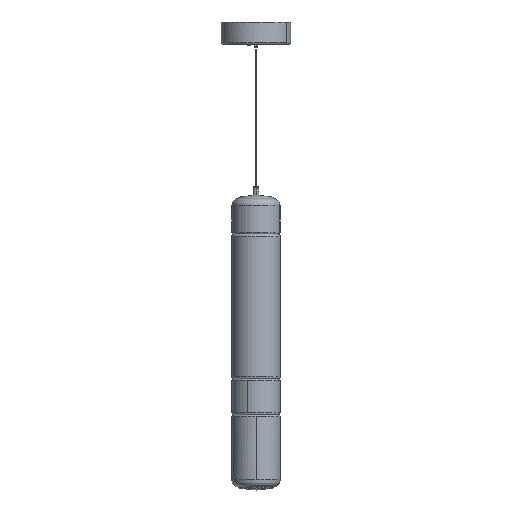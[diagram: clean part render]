
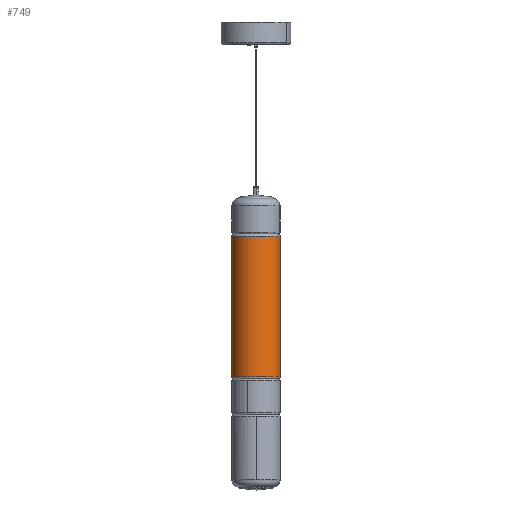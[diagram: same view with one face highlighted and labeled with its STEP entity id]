
A CAD part, left-side view. The second image highlights one B-rep face of the part: STEP entity #749.
In plain terms, the highlighted cylindrical face has radius 50 mm (diameter 100 mm), a partial arc.
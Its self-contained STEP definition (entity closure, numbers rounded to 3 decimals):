
#749=ADVANCED_FACE('',(#1507),#12030,.T.);
#1507=FACE_OUTER_BOUND('',#2295,.T.);
#2295=EDGE_LOOP('',(#3859,#3860,#3861,#3862,#3863,#3864));
#3859=ORIENTED_EDGE('',*,*,#7140,.T.);
#3860=ORIENTED_EDGE('',*,*,#7138,.T.);
#3861=ORIENTED_EDGE('',*,*,#7141,.T.);
#3862=ORIENTED_EDGE('',*,*,#7136,.F.);
#3863=ORIENTED_EDGE('',*,*,#7135,.F.);
#3864=ORIENTED_EDGE('',*,*,#7162,.F.);
#7135=EDGE_CURVE('',#10722,#10723,#8832,.T.);
#7136=EDGE_CURVE('',#10723,#10720,#8833,.T.);
#7138=EDGE_CURVE('',#10726,#10727,#8835,.T.);
#7140=EDGE_CURVE('',#10728,#10726,#8837,.T.);
#7141=EDGE_CURVE('',#10727,#10720,#9837,.T.);
#7162=EDGE_CURVE('',#10728,#10722,#9842,.T.);
#8832=(
BOUNDED_CURVE()
B_SPLINE_CURVE(2,(#16673,#16674,#16675),.UNSPECIFIED.,.F.,.F.)
B_SPLINE_CURVE_WITH_KNOTS((3,3),(144.513,216.77),
 .UNSPECIFIED.)
CURVE()
GEOMETRIC_REPRESENTATION_ITEM()
RATIONAL_B_SPLINE_CURVE((1.,0.707,1.))
REPRESENTATION_ITEM('')
);
#8833=(
BOUNDED_CURVE()
B_SPLINE_CURVE(2,(#16676,#16677,#16678),.UNSPECIFIED.,.F.,.F.)
B_SPLINE_CURVE_WITH_KNOTS((3,3),(216.77,289.027),
 .UNSPECIFIED.)
CURVE()
GEOMETRIC_REPRESENTATION_ITEM()
RATIONAL_B_SPLINE_CURVE((1.,0.707,1.))
REPRESENTATION_ITEM('')
);
#8835=(
BOUNDED_CURVE()
B_SPLINE_CURVE(2,(#16684,#16685,#16686),.UNSPECIFIED.,.F.,.F.)
B_SPLINE_CURVE_WITH_KNOTS((3,3),(0.,78.54),.UNSPECIFIED.)
CURVE()
GEOMETRIC_REPRESENTATION_ITEM()
RATIONAL_B_SPLINE_CURVE((1.,0.707,1.))
REPRESENTATION_ITEM('')
);
#8837=(
BOUNDED_CURVE()
B_SPLINE_CURVE(2,(#16692,#16693,#16694),.UNSPECIFIED.,.F.,.F.)
B_SPLINE_CURVE_WITH_KNOTS((3,3),(0.,78.54),.UNSPECIFIED.)
CURVE()
GEOMETRIC_REPRESENTATION_ITEM()
RATIONAL_B_SPLINE_CURVE((1.,0.707,1.))
REPRESENTATION_ITEM('')
);
#9837=B_SPLINE_CURVE_WITH_KNOTS('',1,(#16695,#16696),.UNSPECIFIED.,.F.,
 .F.,(2,2),(29.32,321.32),.UNSPECIFIED.);
#9842=B_SPLINE_CURVE_WITH_KNOTS('',1,(#16761,#16762),.UNSPECIFIED.,.F.,
 .F.,(2,2),(29.32,321.32),.UNSPECIFIED.);
#10720=VERTEX_POINT('',#16463);
#10722=VERTEX_POINT('',#16465);
#10723=VERTEX_POINT('',#16466);
#10726=VERTEX_POINT('',#16469);
#10727=VERTEX_POINT('',#16470);
#10728=VERTEX_POINT('',#16471);
#12030=CYLINDRICAL_SURFACE('',#12430,50.);
#12430=AXIS2_PLACEMENT_3D('',#16330,#12995,$);
#12995=DIRECTION('',(0.,0.,-1.));
#16330=CARTESIAN_POINT('',(0.,0.,-591.064));
#16463=CARTESIAN_POINT('',(0.,50.,-737.064));
#16465=CARTESIAN_POINT('',(0.,-50.,-737.064));
#16466=CARTESIAN_POINT('',(-50.,0.,-737.064));
#16469=CARTESIAN_POINT('',(-50.,0.,-445.064));
#16470=CARTESIAN_POINT('',(0.,50.,-445.064));
#16471=CARTESIAN_POINT('',(0.,-50.,-445.064));
#16673=CARTESIAN_POINT('',(0.,-50.,-737.064));
#16674=CARTESIAN_POINT('',(-50.,-50.,-737.064));
#16675=CARTESIAN_POINT('',(-50.,0.,-737.064));
#16676=CARTESIAN_POINT('',(-50.,0.,-737.064));
#16677=CARTESIAN_POINT('',(-50.,50.,-737.064));
#16678=CARTESIAN_POINT('',(0.,50.,-737.064));
#16684=CARTESIAN_POINT('',(-50.,0.,-445.064));
#16685=CARTESIAN_POINT('',(-50.,50.,-445.064));
#16686=CARTESIAN_POINT('',(0.,50.,-445.064));
#16692=CARTESIAN_POINT('',(0.,-50.,-445.064));
#16693=CARTESIAN_POINT('',(-50.,-50.,-445.064));
#16694=CARTESIAN_POINT('',(-50.,0.,-445.064));
#16695=CARTESIAN_POINT('',(0.,50.,-445.064));
#16696=CARTESIAN_POINT('',(0.,50.,-737.064));
#16761=CARTESIAN_POINT('',(0.,-50.,-445.064));
#16762=CARTESIAN_POINT('',(0.,-50.,-737.064));
